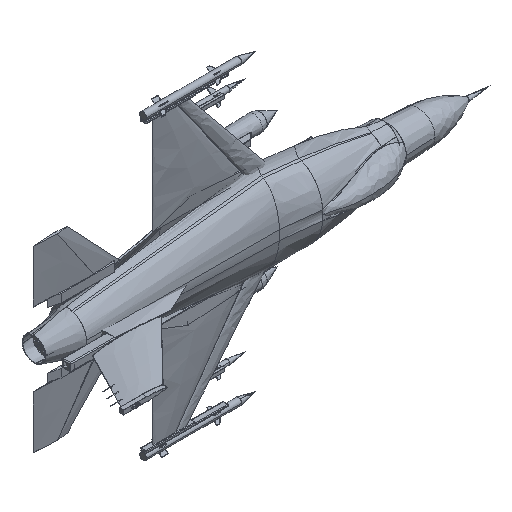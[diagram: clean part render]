
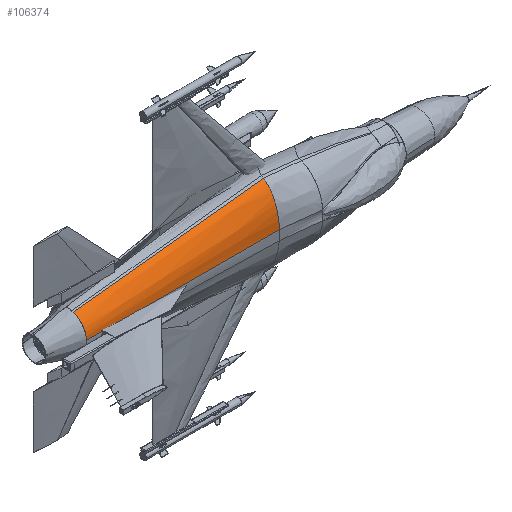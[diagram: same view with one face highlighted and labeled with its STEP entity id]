
A CAD part, isometric view. The second image highlights one B-rep face of the part: STEP entity #106374.
In plain terms, the highlighted free-form (B-spline) face has degree [5, 5] with [6, 6] control points.
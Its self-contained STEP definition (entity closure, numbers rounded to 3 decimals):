
#106277=CARTESIAN_POINT('Vertex',(23.,-7.217,43.578)) ;
#106281=CARTESIAN_POINT('Control Point',(23.,-7.217,43.578)) ;
#106282=CARTESIAN_POINT('Control Point',(-18.6,-7.316,39.152)) ;
#106283=CARTESIAN_POINT('Control Point',(-60.2,-7.414,34.725)) ;
#106284=CARTESIAN_POINT('Control Point',(-101.8,-7.513,30.299)) ;
#106285=CARTESIAN_POINT('Control Point',(-143.4,-7.611,25.873)) ;
#106286=CARTESIAN_POINT('Control Point',(-185.,-7.709,21.446)) ;
#106287=CARTESIAN_POINT('Vertex',(-185.,-7.709,21.446)) ;
#106304=CARTESIAN_POINT('Control Point',(23.,-7.217,43.578)) ;
#106305=CARTESIAN_POINT('Control Point',(23.,-12.915,40.45)) ;
#106306=CARTESIAN_POINT('Control Point',(23.,-18.103,34.238)) ;
#106307=CARTESIAN_POINT('Control Point',(23.,-22.099,25.294)) ;
#106308=CARTESIAN_POINT('Control Point',(23.,-24.382,14.781)) ;
#106309=CARTESIAN_POINT('Control Point',(23.,-24.904,3.988)) ;
#106310=CARTESIAN_POINT('Control Point',(-18.6,-7.316,39.152)) ;
#106311=CARTESIAN_POINT('Control Point',(-18.6,-12.84,36.302)) ;
#106312=CARTESIAN_POINT('Control Point',(-18.6,-17.856,30.714)) ;
#106313=CARTESIAN_POINT('Control Point',(-18.6,-21.717,22.703)) ;
#106314=CARTESIAN_POINT('Control Point',(-18.6,-23.934,13.3)) ;
#106315=CARTESIAN_POINT('Control Point',(-18.6,-24.458,3.644)) ;
#106316=CARTESIAN_POINT('Control Point',(-60.2,-7.414,34.725)) ;
#106317=CARTESIAN_POINT('Control Point',(-60.2,-12.765,32.154)) ;
#106318=CARTESIAN_POINT('Control Point',(-60.2,-17.61,27.189)) ;
#106319=CARTESIAN_POINT('Control Point',(-60.2,-21.337,20.112)) ;
#106320=CARTESIAN_POINT('Control Point',(-60.2,-23.487,11.819)) ;
#106321=CARTESIAN_POINT('Control Point',(-60.2,-24.013,3.301)) ;
#106322=CARTESIAN_POINT('Control Point',(-101.8,-7.513,30.299)) ;
#106323=CARTESIAN_POINT('Control Point',(-101.8,-12.689,28.006)) ;
#106324=CARTESIAN_POINT('Control Point',(-101.8,-17.364,23.665)) ;
#106325=CARTESIAN_POINT('Control Point',(-101.8,-20.96,17.521)) ;
#106326=CARTESIAN_POINT('Control Point',(-101.8,-23.042,10.338)) ;
#106327=CARTESIAN_POINT('Control Point',(-101.8,-23.568,2.957)) ;
#106328=CARTESIAN_POINT('Control Point',(-143.4,-7.611,25.873)) ;
#106329=CARTESIAN_POINT('Control Point',(-143.4,-12.614,23.858)) ;
#106330=CARTESIAN_POINT('Control Point',(-143.4,-17.12,20.14)) ;
#106331=CARTESIAN_POINT('Control Point',(-143.4,-20.585,14.93)) ;
#106332=CARTESIAN_POINT('Control Point',(-143.4,-22.6,8.857)) ;
#106333=CARTESIAN_POINT('Control Point',(-143.4,-23.122,2.614)) ;
#106334=CARTESIAN_POINT('Control Point',(-185.,-7.709,21.446)) ;
#106335=CARTESIAN_POINT('Control Point',(-185.,-12.539,19.71)) ;
#106336=CARTESIAN_POINT('Control Point',(-185.,-16.881,16.616)) ;
#106337=CARTESIAN_POINT('Control Point',(-185.,-20.218,12.34)) ;
#106338=CARTESIAN_POINT('Control Point',(-185.,-22.165,7.377)) ;
#106339=CARTESIAN_POINT('Control Point',(-185.,-22.677,2.27)) ;
#106341=CARTESIAN_POINT('Control Point',(23.,-7.217,43.578)) ;
#106342=CARTESIAN_POINT('Control Point',(23.,-12.915,40.45)) ;
#106343=CARTESIAN_POINT('Control Point',(23.,-18.103,34.238)) ;
#106344=CARTESIAN_POINT('Control Point',(23.,-22.099,25.294)) ;
#106345=CARTESIAN_POINT('Control Point',(23.,-24.382,14.781)) ;
#106346=CARTESIAN_POINT('Control Point',(23.,-24.904,3.988)) ;
#106347=CARTESIAN_POINT('Vertex',(23.,-24.904,3.988)) ;
#106351=CARTESIAN_POINT('Control Point',(23.,-24.904,3.988)) ;
#106352=CARTESIAN_POINT('Control Point',(-18.6,-24.458,3.644)) ;
#106353=CARTESIAN_POINT('Control Point',(-60.2,-24.013,3.301)) ;
#106354=CARTESIAN_POINT('Control Point',(-101.8,-23.568,2.957)) ;
#106355=CARTESIAN_POINT('Control Point',(-143.4,-23.122,2.614)) ;
#106356=CARTESIAN_POINT('Control Point',(-185.,-22.677,2.27)) ;
#106357=CARTESIAN_POINT('Vertex',(-185.,-22.677,2.27)) ;
#106361=CARTESIAN_POINT('Control Point',(-185.,-7.709,21.446)) ;
#106362=CARTESIAN_POINT('Control Point',(-185.,-12.539,19.71)) ;
#106363=CARTESIAN_POINT('Control Point',(-185.,-16.881,16.616)) ;
#106364=CARTESIAN_POINT('Control Point',(-185.,-20.218,12.34)) ;
#106365=CARTESIAN_POINT('Control Point',(-185.,-22.165,7.377)) ;
#106366=CARTESIAN_POINT('Control Point',(-185.,-22.677,2.27)) ;
#106369=ORIENTED_EDGE('',*,*,#106289,.F.) ;
#106370=ORIENTED_EDGE('',*,*,#106349,.T.) ;
#106371=ORIENTED_EDGE('',*,*,#106359,.T.) ;
#106372=ORIENTED_EDGE('',*,*,#106367,.F.) ;
#106374=ADVANCED_FACE('Multi-sections Surface.26',(#106373),#106303,.F.) ;
#106280=B_SPLINE_CURVE_WITH_KNOTS('',5,(#106281,#106282,#106283,#106284,#106285,#106286),.UNSPECIFIED.,.F.,.U.,(6,6),(0.,209.067),.UNSPECIFIED.) ;
#106340=B_SPLINE_CURVE_WITH_KNOTS('',5,(#106341,#106342,#106343,#106344,#106345,#106346),.UNSPECIFIED.,.F.,.U.,(6,6),(15.209,77.016),.UNSPECIFIED.) ;
#106350=B_SPLINE_CURVE_WITH_KNOTS('',5,(#106351,#106352,#106353,#106354,#106355,#106356),.UNSPECIFIED.,.F.,.U.,(6,6),(0.,209.067),.UNSPECIFIED.) ;
#106360=B_SPLINE_CURVE_WITH_KNOTS('',5,(#106361,#106362,#106363,#106364,#106365,#106366),.UNSPECIFIED.,.F.,.U.,(6,6),(15.209,77.016),.UNSPECIFIED.) ;
#106303=B_SPLINE_SURFACE_WITH_KNOTS('',5,5,((#106304,#106305,#106306,#106307,#106308,#106309),(#106310,#106311,#106312,#106313,#106314,#106315),(#106316,#106317,#106318,#106319,#106320,#106321),(#106322,#106323,#106324,#106325,#106326,#106327),(#106328,#106329,#106330,#106331,#106332,#106333),(#106334,#106335,#106336,#106337,#106338,#106339)),.UNSPECIFIED.,.F.,.F.,.U.,(6,6),(6,6),(0.,209.067),(15.209,77.016),.UNSPECIFIED.) ;
#106289=EDGE_CURVE('',#106278,#106288,#106280,.T.) ;
#106349=EDGE_CURVE('',#106278,#106348,#106340,.T.) ;
#106359=EDGE_CURVE('',#106348,#106358,#106350,.T.) ;
#106367=EDGE_CURVE('',#106288,#106358,#106360,.T.) ;
#106368=EDGE_LOOP('',(#106369,#106370,#106371,#106372)) ;
#106373=FACE_OUTER_BOUND('',#106368,.T.) ;
#106278=VERTEX_POINT('',#106277) ;
#106288=VERTEX_POINT('',#106287) ;
#106348=VERTEX_POINT('',#106347) ;
#106358=VERTEX_POINT('',#106357) ;
